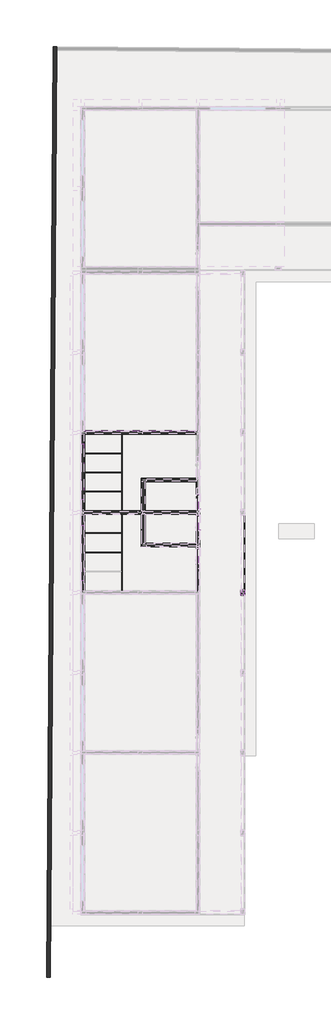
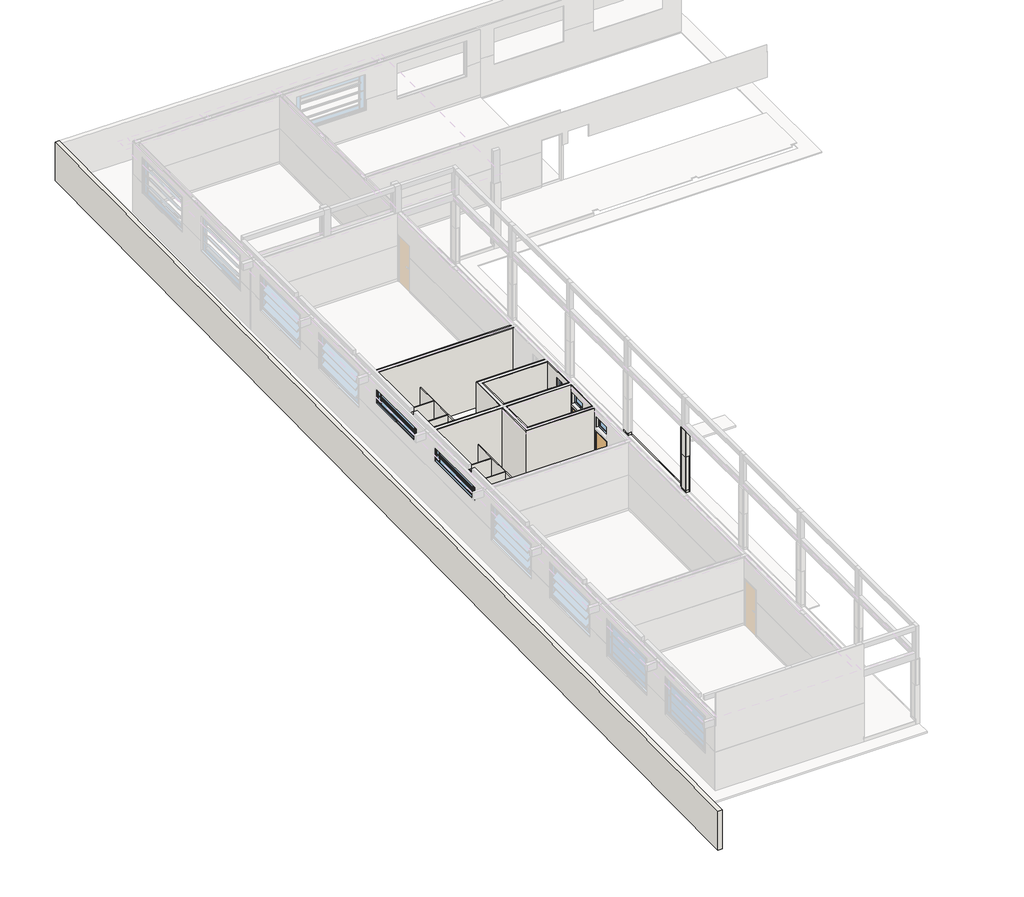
# One storey, part 3 of 11: 55 walls, 5 windows, 3 doors.
"""IFC4 building model written with IfcOpenShell, lengths in millimetres."""

from ifc_helpers import new_model, si_unit, frame, origin, place, context, project, spatial, polyline, outline, extrude, faceted_brep, transform, mapped, element, save
from components import door_80_x_210_cm_externa_36d8658d, door_80_x_210_cm_externa_7cd48cfd, window_a2abf67e, window_51dac84b

model = new_model("IFC4")

# Units and contexts
model_context = context("Model", 3, world=origin())
ifc_project = project(units=[si_unit("LENGTHUNIT", "METRE", prefix="MILLI")], contexts=[model_context])

# Site, building, storey
site = spatial("IfcSite", under=ifc_project)
building = spatial("IfcBuilding", under=site)
storey = spatial("IfcBuildingStorey", under=building, Name="NÍVEL 1", Elevation=43.4413576)

# Doors
placement = place(None, origin())
door_80_x_210_cm_externa_shape = door_80_x_210_cm_externa_36d8658d(model_context)
element("IfcDoor", 1, ObjectType="POR_PM_GIRO_1FL : 80 x 210 cm Externa", at=placement, inside=storey, context=model_context, shape_type="MappedRepresentation", body=[
    mapped(door_80_x_210_cm_externa_shape, transform((9202.3574069, -7377.9280358, 63.4413576), x_axis=(0.0, -1.0, 0.0), y_axis=(1.0, 0.0, 0.0), z_axis=(0.0, 0.0, 1.0))),
])
element("IfcDoor", 2, ObjectType="POR_PM_GIRO_1FL : 80 x 210 cm Externa", at=placement, inside=storey, context=model_context, shape_type="MappedRepresentation", body=[
    mapped(door_80_x_210_cm_externa_shape, transform((9202.3574069, -5597.9280358, 63.4413576), x_axis=(0.0, -1.0, 0.0), y_axis=(1.0, 0.0, 0.0), z_axis=(0.0, 0.0, 1.0))),
])
door_80_x_210_cm_externa_2_shape = door_80_x_210_cm_externa_7cd48cfd(model_context)
element("IfcDoor", 3, ObjectType="POR_PM_GIRO_1FL : 80 x 210 cm Externa", at=placement, inside=storey, context=model_context, shape_type="MappedRepresentation", body=[
    mapped(door_80_x_210_cm_externa_2_shape, transform((9202.3574069, -4457.9280358, 63.4413576), x_axis=(0.0, 1.0, 0.0), y_axis=(-1.0, 0.0, 0.0), z_axis=(0.0, 0.0, 1.0))),
])

# Walls
element("IfcWall", 4, ObjectType="RODAPÉ EM GRANILITE", at=placement, inside=storey, context=model_context, shape_type="Brep", body=[
    faceted_brep([(11502.3574069, -9197.9280358, 43.4413576), (11502.3574069, -9487.9280358, 43.4413576), (11502.3574069, -9487.9280358, 143.4413576), (11502.3574069, -9197.9280358, 143.4413576), (11532.3574069, -9197.9280358, 43.4413576), (11532.3574069, -9197.9280358, 143.4413576), (11532.3574069, -9457.9280358, 143.4413576), (11532.3574069, -9487.9280358, 143.4413576), (11532.3574069, -9487.9280358, 43.4413576), (11532.3574069, -9457.9280358, 43.4413576)], [[[0, 1, 2, 3]], [[4, 5, 6, 7, 8, 9]], [[1, 0, 4, 9, 8]], [[3, 2, 7, 6, 5]], [[0, 3, 5, 4]], [[2, 1, 8, 7]]]),
])
element("IfcWall", 5, ObjectType="RODAPÉ EM GRANILITE", at=placement, inside=storey, context=model_context, shape_type="Brep", body=[
    faceted_brep([(11532.3574069, -9487.9280358, 43.4413576), (11672.3574069, -9487.9280358, 43.4413576), (11672.3574069, -9487.9280358, 143.4413576), (11532.3574069, -9487.9280358, 143.4413576), (11532.3574069, -9457.9280358, 43.4413576), (11532.3574069, -9457.9280358, 143.4413576), (11672.3574069, -9457.9280358, 143.4413576), (11672.3574069, -9457.9280358, 43.4413576), (11672.3574069, -9472.9280358, 43.4413576)], [[[0, 1, 2, 3]], [[4, 5, 6, 7]], [[1, 0, 4, 7, 8]], [[3, 2, 6, 5]], [[0, 3, 5, 4]], [[2, 1, 8, 7, 6]]]),
])
element("IfcWall", 6, ObjectType="RODAPÉ EM GRANILITE", at=placement, inside=storey, context=model_context, shape_type="Brep", body=[
    faceted_brep([(11502.3574069, -4897.9280358, 43.4413576), (11502.3574069, -5187.9280358, 43.4413576), (11502.3574069, -5187.9280358, 143.4413576), (11502.3574069, -4897.9280358, 143.4413576), (11532.3574069, -4897.9280358, 43.4413576), (11532.3574069, -4897.9280358, 143.4413576), (11532.3574069, -5157.9280358, 143.4413576), (11532.3574069, -5187.9280358, 143.4413576), (11532.3574069, -5187.9280358, 43.4413576), (11532.3574069, -5157.9280358, 43.4413576)], [[[0, 1, 2, 3]], [[4, 5, 6, 7, 8, 9]], [[1, 0, 4, 9, 8]], [[3, 2, 7, 6, 5]], [[0, 3, 5, 4]], [[2, 1, 8, 7]]]),
])
element("IfcWall", 7, ObjectType="RODAPÉ EM GRANILITE", at=placement, inside=storey, context=model_context, shape_type="Brep", body=[
    faceted_brep([(11532.3574069, -5187.9280358, 43.4413576), (11672.3574069, -5187.9280358, 43.4413576), (11672.3574069, -5187.9280358, 143.4413576), (11532.3574069, -5187.9280358, 143.4413576), (11532.3574069, -5157.9280358, 43.4413576), (11532.3574069, -5157.9280358, 143.4413576), (11672.3574069, -5157.9280358, 143.4413576), (11672.3574069, -5157.9280358, 43.4413576), (11672.3574069, -5172.9280358, 43.4413576)], [[[0, 1, 2, 3]], [[4, 5, 6, 7]], [[1, 0, 4, 7, 8]], [[3, 2, 6, 5]], [[0, 3, 5, 4]], [[2, 1, 8, 7, 6]]]),
])
element("IfcWall", 8, ObjectType="MASSA ÚNICA PARA BARRADO", at=placement, inside=storey, context=model_context, shape_type="Brep", body=[
    faceted_brep([(11702.3574069, -9182.9280358, -106.5586424), (11702.3574069, -5172.9280358, -106.5586424), (11702.3574069, -5172.9280358, 43.4413576), (11702.3574069, -5187.9280358, 43.4413576), (11702.3574069, -9167.9280358, 43.4413576), (11702.3574069, -9182.9280358, 43.4413576), (11672.3574069, -9182.9280358, -106.5586424), (11672.3574069, -9182.9280358, 43.4413576), (11672.3574069, -9167.9280358, 43.4413576), (11672.3574069, -5187.9280358, 43.4413576), (11672.3574069, -5172.9280358, 43.4413576), (11672.3574069, -5172.9280358, -106.5586424)], [[[0, 1, 2, 3, 4, 5]], [[6, 7, 8, 9, 10, 11]], [[1, 0, 6, 11]], [[2, 1, 11, 10]], [[5, 4, 3, 2, 10, 9, 8, 7]], [[0, 5, 7, 6]]]),
])
element("IfcWall", 9, ObjectType="MASSA ÚNICA PARA BARRADO", at=placement, inside=storey, context=model_context, shape_type="Brep", body=[
    faceted_brep([(11702.3574069, -9472.9280358, -106.5586424), (11702.3574069, -9182.9280358, -106.5586424), (11702.3574069, -9182.9280358, 43.4413576), (11702.3574069, -9167.9280358, 43.4413576), (11702.3574069, -9167.9280358, 1663.4413576), (11702.3574069, -9487.9280358, 1663.4413576), (11702.3574069, -9487.9280358, 43.4413576), (11702.3574069, -9472.9280358, 43.4413576), (11672.3574069, -9472.9280358, -106.5586424), (11672.3574069, -9472.9280358, 43.4413576), (11672.3574069, -9487.9280358, 43.4413576), (11672.3574069, -9487.9280358, 143.4413576), (11672.3574069, -9487.9280358, 1663.4413576), (11672.3574069, -9457.9280358, 1663.4413576), (11672.3574069, -9197.9280358, 1663.4413576), (11672.3574069, -9167.9280358, 1663.4413576), (11672.3574069, -9167.9280358, 143.4413576), (11672.3574069, -9167.9280358, 43.4413576), (11672.3574069, -9182.9280358, 43.4413576), (11672.3574069, -9182.9280358, -106.5586424)], [[[0, 1, 2, 3, 4, 5, 6, 7]], [[8, 9, 10, 11, 12, 13, 14, 15, 16, 17, 18, 19]], [[1, 0, 8, 19]], [[5, 4, 15, 14, 13, 12]], [[0, 7, 9, 8]], [[6, 10, 9, 7]], [[2, 1, 19, 18]], [[17, 3, 2, 18]], [[3, 17, 16, 15, 4]], [[5, 12, 11, 10, 6]]]),
])
element("IfcWall", 10, ObjectType="PARE.ALVE ALVENARIA DE BLOCOS CERÂMICOS FURADOS NA HORIZONTAL 14X9X19", at=placement, inside=storey, context=model_context, shape_type="Brep", body=[
    faceted_brep([(9272.3574069, -9227.9280358, 2843.4413576), (9272.3574069, -9227.9280358, 43.4413576), (9272.3574069, -7797.9280358, 43.4413576), (9272.3574069, -7797.9280358, 2163.4413576), (9272.3574069, -6957.9280358, 2163.4413576), (9272.3574069, -6957.9280358, 43.4413576), (9272.3574069, -6017.9280358, 43.4413576), (9272.3574069, -6017.9280358, 2163.4413576), (9272.3574069, -5177.9280358, 2163.4413576), (9272.3574069, -5177.9280358, 43.4413576), (9272.3574069, -5157.9280358, 43.4413576), (9272.3574069, -5157.9280358, 2208.4413576), (9272.3574069, -6357.9280358, 2208.4413576), (9272.3574069, -6357.9280358, 2308.4413576), (9272.3574069, -5157.9280358, 2308.4413576), (9272.3574069, -5157.9280358, 2843.4413576), (9272.3574069, -5187.9280358, 2843.4413576), (9272.3574069, -5187.9280358, 2343.4413576), (9272.3574069, -5162.9280358, 2343.4413576), (9272.3574069, -5162.9280358, 2313.4413576), (9272.3574069, -6012.9280358, 2313.4413576), (9272.3574069, -6012.9280358, 2343.4413576), (9272.3574069, -5987.9280358, 2343.4413576), (9272.3574069, -5987.9280358, 2843.4413576), (9272.3574069, -6967.9280358, 2843.4413576), (9272.3574069, -6967.9280358, 2343.4413576), (9272.3574069, -6942.9280358, 2343.4413576), (9272.3574069, -6942.9280358, 2313.4413576), (9272.3574069, -7792.9280358, 2313.4413576), (9272.3574069, -7792.9280358, 2343.4413576), (9272.3574069, -7767.9280358, 2343.4413576), (9272.3574069, -7767.9280358, 2843.4413576), (9272.3574069, -8047.9280358, 2308.4413576), (9272.3574069, -6847.9280358, 2308.4413576), (9272.3574069, -6847.9280358, 2208.4413576), (9272.3574069, -8047.9280358, 2208.4413576), (9132.3574069, -9227.9280358, 43.4413576), (9132.3574069, -9227.9280358, 2843.4413576), (9132.3574069, -7767.9280358, 2843.4413576), (9132.3574069, -7767.9280358, 2343.4413576), (9132.3574069, -7792.9280358, 2343.4413576), (9132.3574069, -7792.9280358, 2313.4413576), (9132.3574069, -6942.9280358, 2313.4413576), (9132.3574069, -6942.9280358, 2343.4413576), (9132.3574069, -6967.9280358, 2343.4413576), (9132.3574069, -6967.9280358, 2843.4413576), (9132.3574069, -6847.9280358, 2843.4413576), (9132.3574069, -6707.9280358, 2843.4413576), (9132.3574069, -5987.9280358, 2843.4413576), (9132.3574069, -5987.9280358, 2343.4413576), (9132.3574069, -6012.9280358, 2343.4413576), (9132.3574069, -6012.9280358, 2313.4413576), (9132.3574069, -5162.9280358, 2313.4413576), (9132.3574069, -5162.9280358, 2343.4413576), (9132.3574069, -5187.9280358, 2343.4413576), (9132.3574069, -5187.9280358, 2843.4413576), (9132.3574069, -5157.9280358, 2843.4413576), (9132.3574069, -5157.9280358, 2308.4413576), (9132.3574069, -6357.9280358, 2308.4413576), (9132.3574069, -6357.9280358, 2208.4413576), (9132.3574069, -5157.9280358, 2208.4413576), (9132.3574069, -5157.9280358, 43.4413576), (9132.3574069, -5177.9280358, 43.4413576), (9132.3574069, -5177.9280358, 2163.4413576), (9132.3574069, -6017.9280358, 2163.4413576), (9132.3574069, -6017.9280358, 43.4413576), (9132.3574069, -6707.9280358, 43.4413576), (9132.3574069, -6847.9280358, 43.4413576), (9132.3574069, -6957.9280358, 43.4413576), (9132.3574069, -6957.9280358, 2163.4413576), (9132.3574069, -7797.9280358, 2163.4413576), (9132.3574069, -7797.9280358, 43.4413576), (9132.3574069, -6847.9280358, 2308.4413576), (9132.3574069, -8047.9280358, 2308.4413576), (9132.3574069, -8047.9280358, 2208.4413576), (9132.3574069, -6847.9280358, 2208.4413576)], [[[0, 1, 2, 3, 4, 5, 6, 7, 8, 9, 10, 11, 12, 13, 14, 15, 16, 17, 18, 19, 20, 21, 22, 23, 24, 25, 26, 27, 28, 29, 30, 31], [32, 33, 34, 35]], [[36, 37, 38, 39, 40, 41, 42, 43, 44, 45, 46, 47, 48, 49, 50, 51, 52, 53, 54, 55, 56, 57, 58, 59, 60, 61, 62, 63, 64, 65, 66, 67, 68, 69, 70, 71], [72, 73, 74, 75]], [[61, 10, 9, 62]], [[1, 36, 71, 2]], [[5, 68, 67, 66, 65, 6]], [[10, 61, 60, 11]], [[56, 15, 14, 57]], [[15, 56, 55, 16]], [[37, 0, 31, 38]], [[23, 48, 47, 46, 45, 24]], [[1, 0, 37, 36]], [[4, 69, 68, 5]], [[70, 3, 2, 71]], [[69, 4, 3, 70]], [[8, 63, 62, 9]], [[64, 7, 6, 65]], [[63, 8, 7, 64]], [[32, 73, 72, 33]], [[73, 32, 35, 74]], [[74, 35, 34, 75]], [[33, 72, 75, 34]], [[13, 58, 57, 14]], [[58, 13, 12, 59]], [[59, 12, 11, 60]], [[53, 52, 19, 18]], [[54, 53, 18, 17]], [[55, 54, 17, 16]], [[49, 48, 23, 22]], [[50, 49, 22, 21]], [[51, 50, 21, 20]], [[52, 51, 20, 19]], [[43, 42, 27, 26]], [[44, 43, 26, 25]], [[45, 44, 25, 24]], [[39, 38, 31, 30]], [[40, 39, 30, 29]], [[41, 40, 29, 28]], [[42, 41, 28, 27]]]),
])
element("IfcWall", 11, ObjectType="PARE.ALVE ALVENARIA DE BLOCOS CERÂMICOS FURADOS NA HORIZONTAL 14X9X19", at=placement, inside=storey, context=model_context, shape_type="Brep", body=[
    faceted_brep([(6442.3574069, -6847.9280358, 43.4413576), (9132.3574069, -6847.9280358, 43.4413576), (9132.3574069, -6847.9280358, 63.4413576), (9132.3574069, -6847.9280358, 2208.4413576), (9132.3574069, -6847.9280358, 2308.4413576), (9132.3574069, -6847.9280358, 2843.4413576), (6442.3574069, -6847.9280358, 2843.4413576), (6442.3574069, -6707.9280358, 43.4413576), (6442.3574069, -6707.9280358, 2843.4413576), (9132.3574069, -6707.9280358, 2843.4413576), (9132.3574069, -6707.9280358, 43.4413576)], [[[0, 1, 2, 3, 4, 5, 6]], [[7, 8, 9, 10]], [[1, 0, 7, 10]], [[6, 5, 9, 8]], [[0, 6, 8, 7]], [[5, 4, 3, 2, 1, 10, 9]]]),
])
element("IfcWall", 12, ObjectType="PARE.ALVE ALVENARIA DE BLOCOS CERÂMICOS FURADOS NA HORIZONTAL 14X9X19", at=placement, inside=storey, context=model_context, shape_type="Brep", body=[
    faceted_brep([(6322.3574069, -5097.9280358, 43.4413576), (9102.3574069, -5097.9280358, 43.4413576), (9132.3574069, -5097.9280358, 43.4413576), (9132.3574069, -5097.9280358, 2843.4413576), (6322.3574069, -5097.9280358, 2843.4413576), (6322.3574069, -4957.9280358, 43.4413576), (6322.3574069, -4957.9280358, 2843.4413576), (9132.3574069, -4957.9280358, 2843.4413576), (9132.3574069, -4957.9280358, 43.4413576)], [[[0, 1, 2, 3, 4]], [[5, 6, 7, 8]], [[2, 1, 0, 5, 8]], [[4, 3, 7, 6]], [[0, 4, 6, 5]], [[3, 2, 8, 7]]]),
])
element("IfcWall", 13, ObjectType="PARE.ALVE ALVENARIA DE BLOCOS CERÂMICOS FURADOS NA HORIZONTAL 14X9X19", at=placement, inside=storey, context=model_context, shape_type="Brep", body=[
    faceted_brep([(6322.3574069, -6707.9280358, 43.4413576), (6322.3574069, -5097.9280358, 43.4413576), (6322.3574069, -4957.9280358, 43.4413576), (6322.3574069, -3347.9201223, 43.4413576), (6322.3574069, -3347.9201223, 2843.4413576), (6322.3574069, -4957.9280358, 2843.4413576), (6322.3574069, -5097.9280358, 2843.4413576), (6322.3574069, -6707.9280358, 2843.4413576), (6182.3574069, -6707.9280358, 43.4413576), (6182.3574069, -6707.9280358, 2843.4413576), (6182.3574069, -3347.9201223, 2843.4413576), (6182.3574069, -3347.9201223, 43.4413576)], [[[0, 1, 2, 3, 4, 5, 6, 7]], [[8, 9, 10, 11]], [[3, 2, 1, 0, 8, 11]], [[4, 3, 11, 10]], [[7, 6, 5, 4, 10, 9]], [[0, 7, 9, 8]]]),
])
element("IfcWall", 14, ObjectType="PARE.ALVE ALVENARIA DE BLOCOS CERÂMICOS FURADOS NA HORIZONTAL 14X9X19", at=placement, inside=storey, context=model_context, shape_type="Brep", body=[
    faceted_brep([(6442.3574069, -3347.9280358, 43.4413576), (9132.3574069, -3347.9280358, 43.4413576), (9132.3574069, -3347.9280358, 2843.4413576), (6442.3574069, -3347.9280358, 2843.4413576), (6442.3574069, -3207.9280358, 43.4413576), (6442.3574069, -3207.9280358, 2843.4413576), (9132.3574069, -3207.9280358, 2843.4413576), (9132.3574069, -3207.9280358, 2308.4413576), (9132.3574069, -3207.9280358, 2208.4413576), (9132.3574069, -3207.9280358, 63.4413576), (9132.3574069, -3207.9280358, 43.4413576)], [[[0, 1, 2, 3]], [[4, 5, 6, 7, 8, 9, 10]], [[1, 0, 4, 10]], [[3, 2, 6, 5]], [[0, 3, 5, 4]], [[1, 10, 9, 8, 7, 6, 2]]]),
])
element("IfcWall", 15, ObjectType="PARE.ALVE ALVENARIA DE BLOCOS CERÂMICOS FURADOS NA HORIZONTAL 14X9X19", at=placement, inside=storey, context=model_context, shape_type="Brep", body=[
    faceted_brep([(5972.3574069, -4957.9280358, 43.4413576), (3072.3574069, -4957.9280358, 43.4413576), (3072.3574069, -4957.9280358, 2843.4413576), (5972.3574069, -4957.9280358, 2843.4413576), (5972.3574069, -5097.9280358, 43.4413576), (5972.3574069, -5097.9280358, 2843.4413576), (3072.3574069, -5097.9280358, 2843.4413576), (3072.3574069, -5097.9280358, 63.4413576), (3072.3574069, -5097.9280358, 43.4413576)], [[[0, 1, 2, 3]], [[4, 5, 6, 7, 8]], [[1, 0, 4, 8]], [[3, 2, 6, 5]], [[0, 3, 5, 4]], [[2, 1, 8, 7, 6]]]),
])
element("IfcWall", 16, ObjectType="PARE.ALVE ALVENARIA DE BLOCOS CERÂMICOS FURADOS NA HORIZONTAL 14X9X19", at=placement, inside=storey, context=model_context, shape_type="SweptSolid", body=[
    extrude(outline(polyline([(3072.3574069, -797.9280358), (3072.3574069, -4897.9280358), (2932.3574069, -4897.9280358), (2932.3574069, -797.9280358), (3072.3574069, -797.9280358)])), frame((0.0, 0.0, 43.4413576), z_axis=(0.0, 0.0, 1.0), x_axis=(1.0, 0.0, 0.0)), (0.0, 0.0, 1.0), 1960.0),
    extrude(outline(polyline([(3072.3574069, -4897.9280358), (2932.3574069, -4897.9280358), (2932.3574069, -4347.9280358), (3072.3574069, -4347.9280358), (3072.3574069, -4897.9280358)])), frame((0.0, 0.0, 2203.4413576), z_axis=(0.0, 0.0, 1.0), x_axis=(1.0, 0.0, 0.0)), (0.0, 0.0, 1.0), 640.0),
    extrude(outline(polyline([(2932.3574069, -797.9280358), (3072.3574069, -797.9280358), (3072.3574069, -1347.9280358), (2932.3574069, -1347.9280358), (2932.3574069, -797.9280358)])), frame((0.0, 0.0, 2203.4413576), z_axis=(0.0, 0.0, 1.0), x_axis=(1.0, 0.0, 0.0)), (0.0, 0.0, 1.0), 640.0),
])
element("IfcWall", 17, ObjectType="PARE.ALVE ALVENARIA DE BLOCOS CERÂMICOS FURADOS NA HORIZONTAL 14X9X19", at=placement, inside=storey, context=model_context, shape_type="SweptSolid", body=[
    extrude(outline(polyline([(2932.3574069, -9257.9280358), (2932.3574069, -5157.9280358), (3072.3574069, -5157.9280358), (3072.3574069, -9257.9280358), (2932.3574069, -9257.9280358)])), frame((0.0, 0.0, 43.4413576), z_axis=(0.0, 0.0, 1.0), x_axis=(1.0, 0.0, 0.0)), (0.0, 0.0, 1.0), 1960.0),
    extrude(outline(polyline([(3072.3574069, -9257.9280358), (2932.3574069, -9257.9280358), (2932.3574069, -8707.9280358), (3072.3574069, -8707.9280358), (3072.3574069, -9257.9280358)])), frame((0.0, 0.0, 2203.4413576), z_axis=(0.0, 0.0, 1.0), x_axis=(1.0, 0.0, 0.0)), (0.0, 0.0, 1.0), 640.0),
    extrude(outline(polyline([(2932.3574069, -5157.9280358), (3072.3574069, -5157.9280358), (3072.3574069, -5707.9280358), (2932.3574069, -5707.9280358), (2932.3574069, -5157.9280358)])), frame((0.0, 0.0, 2203.4413576), z_axis=(0.0, 0.0, 1.0), x_axis=(1.0, 0.0, 0.0)), (0.0, 0.0, 1.0), 640.0),
])
element("IfcWall", 18, ObjectType="PARE.ALVE ALVENARIA DE BLOCOS CERÂMICOS FURADOS NA HORIZONTAL 14X9X19", at=placement, inside=storey, context=model_context, shape_type="SweptSolid", body=[
    extrude(outline(polyline([(5972.3574069, -797.9280358), (3192.3574069, -797.9280358), (3192.3574069, -657.9280358), (5972.3574069, -657.9280358), (5972.3574069, -797.9280358)])), frame((0.0, 0.0, 43.4413576), z_axis=(0.0, 0.0, 1.0), x_axis=(1.0, 0.0, 0.0)), (0.0, 0.0, 1.0), 2800.0),
])
element("IfcWall", 19, ObjectType="PARE.ALVE ALVENARIA DE BLOCOS CERÂMICOS FURADOS NA HORIZONTAL 14X9X19", at=placement, inside=storey, context=model_context, shape_type="SweptSolid", body=[
    extrude(outline(polyline([(9012.3574069, -797.9280358), (6232.3574069, -797.9280358), (6232.3574069, -657.9280358), (9012.3574069, -657.9280358), (9012.3574069, -797.9280358)])), frame((0.0, 0.0, 43.4413576), z_axis=(0.0, 0.0, 1.0), x_axis=(1.0, 0.0, 0.0)), (0.0, 0.0, 1.0), 2800.0),
])
element("IfcWall", 20, ObjectType="REVE.RODA RODAPÉ CERÂMICO TIPO GRÊS 60X60CM", at=placement, inside=storey, context=model_context, shape_type="Brep", body=[
    faceted_brep([(3102.3574069, -5127.9280358, 3143.4413576), (3102.3574069, -5127.9280358, 63.4413576), (6152.3574069, -5127.9280358, 63.4413576), (6182.3574069, -5127.9280358, 63.4413576), (6182.3574069, -5127.9280358, 3143.4413576), (6152.3574069, -5127.9280358, 3143.4413576), (3102.3574069, -5097.9280358, 63.4413576), (3102.3574069, -5097.9280358, 3143.4413576), (6182.3574069, -5097.9280358, 3143.4413576), (6182.3574069, -5097.9280358, 63.4413576)], [[[0, 1, 2, 3, 4, 5]], [[6, 7, 8, 9]], [[3, 2, 1, 6, 9]], [[0, 5, 4, 8, 7]], [[0, 7, 6, 1]], [[4, 3, 9, 8]]]),
])
element("IfcWall", 21, ObjectType="REVE.RODA RODAPÉ CERÂMICO TIPO GRÊS 60X60CM", at=placement, inside=storey, context=model_context, shape_type="Brep", body=[
    faceted_brep([(6152.3574069, -5127.9280358, 63.4413576), (6152.3574069, -6877.9280358, 63.4413576), (6152.3574069, -6877.9280358, 3143.4413576), (6152.3574069, -5127.9280358, 3143.4413576), (6182.3574069, -5127.9280358, 63.4413576), (6182.3574069, -5127.9280358, 3143.4413576), (6182.3574069, -6847.9280358, 3143.4413576), (6182.3574069, -6877.9280358, 3143.4413576), (6182.3574069, -6877.9280358, 63.4413576), (6182.3574069, -6847.9280358, 63.4413576)], [[[0, 1, 2, 3]], [[4, 5, 6, 7, 8, 9]], [[1, 0, 4, 9, 8]], [[3, 2, 7, 6, 5]], [[0, 3, 5, 4]], [[2, 1, 8, 7]]]),
])
element("IfcWall", 22, ObjectType="REVE.RODA RODAPÉ CERÂMICO TIPO GRÊS 60X60CM", at=placement, inside=storey, context=model_context, shape_type="SweptSolid", body=[
    extrude(outline(polyline([(6182.3574069, -6877.9280358), (6182.3574069, -6847.9280358), (9102.3574069, -6847.9280358), (9102.3574069, -6877.9280358), (6182.3574069, -6877.9280358)])), frame((0.0, 0.0, 63.4413576), z_axis=(0.0, 0.0, 1.0), x_axis=(1.0, 0.0, 0.0)), (0.0, 0.0, 1.0), 3080.0),
])
element("IfcWall", 23, ObjectType="REVE.RODA RODAPÉ CERÂMICO TIPO GRÊS 60X60CM", at=placement, inside=storey, context=model_context, shape_type="Brep", body=[
    faceted_brep([(3102.3574069, -9227.9280358, 63.4413576), (3102.3574069, -5127.9280358, 63.4413576), (3102.3574069, -5097.9280358, 63.4413576), (3102.3574069, -5097.9280358, 3143.4413576), (3102.3574069, -5127.9280358, 3143.4413576), (3102.3574069, -9227.9280358, 3143.4413576), (3102.3574069, -8707.9280358, 2843.4413576), (3102.3574069, -5707.9280358, 2843.4413576), (3102.3574069, -5707.9280358, 2203.4413576), (3102.3574069, -8707.9280358, 2203.4413576), (3072.3574069, -5097.9280358, 3143.4413576), (3072.3574069, -5097.9280358, 2843.4413576), (3072.3574069, -5097.9280358, 63.4413576), (3072.3574069, -9227.9280358, 63.4413576), (3072.3574069, -9227.9280358, 3143.4413576), (3072.3574069, -5707.9280358, 2843.4413576), (3072.3574069, -8707.9280358, 2843.4413576), (3072.3574069, -8707.9280358, 2203.4413576), (3072.3574069, -5707.9280358, 2203.4413576)], [[[0, 1, 2, 3, 4, 5], [6, 7, 8, 9]], [[10, 11, 12, 13, 14], [15, 16, 17, 18]], [[2, 1, 0, 13, 12]], [[5, 4, 3, 10, 14]], [[2, 12, 11, 10, 3]], [[0, 5, 14, 13]], [[6, 16, 15, 7]], [[8, 18, 17, 9]], [[16, 6, 9, 17]], [[7, 15, 18, 8]]]),
])
element("IfcWall", 24, ObjectType="Divisória em granito cinza andorinha", at=placement, inside=storey, context=model_context, shape_type="SweptSolid", body=[
    extrude(outline(polyline([(5102.3574069, -7187.9280358), (3102.3574069, -7187.9280358), (3102.3574069, -7157.9280358), (5102.3574069, -7157.9280358), (5102.3574069, -7187.9280358)])), frame((0.0, 0.0, 43.4413576), z_axis=(0.0, 0.0, 1.0), x_axis=(1.0, 0.0, 0.0)), (0.0, 0.0, 1.0), 1800.0),
])
element("IfcWall", 25, ObjectType="Divisória em granito cinza andorinha", at=placement, inside=storey, context=model_context, shape_type="SweptSolid", body=[
    extrude(outline(polyline([(5102.3574069, -6157.9280358), (3102.3574069, -6157.9280358), (3102.3574069, -6127.9280358), (5102.3574069, -6127.9280358), (5102.3574069, -6157.9280358)])), frame((0.0, 0.0, 43.4413576), z_axis=(0.0, 0.0, 1.0), x_axis=(1.0, 0.0, 0.0)), (0.0, 0.0, 1.0), 1800.0),
])
element("IfcWall", 26, ObjectType="Divisória em granito cinza andorinha", at=placement, inside=storey, context=model_context, shape_type="Brep", body=[
    faceted_brep([(5132.3574069, -9227.9280358, 43.4413576), (5132.3574069, -5127.9280358, 43.4413576), (5132.3574069, -5127.9280358, 1843.4413576), (5132.3574069, -9227.9280358, 1843.4413576), (5102.3574069, -9227.9280358, 43.4413576), (5102.3574069, -9227.9280358, 1843.4413576), (5102.3574069, -8217.9280358, 1843.4413576), (5102.3574069, -8187.9280358, 1843.4413576), (5102.3574069, -7187.9280358, 1843.4413576), (5102.3574069, -7157.9280358, 1843.4413576), (5102.3574069, -6157.9280358, 1843.4413576), (5102.3574069, -6127.9280358, 1843.4413576), (5102.3574069, -5127.9280358, 1843.4413576), (5102.3574069, -5127.9280358, 43.4413576), (5102.3574069, -6127.9280358, 43.4413576), (5102.3574069, -6157.9280358, 43.4413576), (5102.3574069, -7157.9280358, 43.4413576), (5102.3574069, -7187.9280358, 43.4413576), (5102.3574069, -8187.9280358, 43.4413576), (5102.3574069, -8217.9280358, 43.4413576)], [[[0, 1, 2, 3]], [[4, 5, 6, 7, 8, 9, 10, 11, 12, 13, 14, 15, 16, 17, 18, 19]], [[1, 0, 4, 19, 18, 17, 16, 15, 14, 13]], [[3, 2, 12, 11, 10, 9, 8, 7, 6, 5]], [[2, 1, 13, 12]], [[0, 3, 5, 4]]]),
])
element("IfcWall", 27, ObjectType="RODAPÉ EM GRANILITE", at=placement, inside=storey, context=model_context, shape_type="Brep", body=[
    faceted_brep([(9132.3574069, -627.9280358, 63.4413576), (9102.3574069, -627.9280358, 63.4413576), (3102.3574069, -627.9280358, 63.4413576), (3072.3574069, -627.9280358, 63.4413576), (3072.3574069, -627.9280358, 163.4413576), (3102.3574069, -627.9280358, 163.4413576), (9102.3574069, -627.9280358, 163.4413576), (9132.3574069, -627.9280358, 163.4413576), (9132.3574069, -657.9280358, 63.4413576), (9132.3574069, -657.9280358, 163.4413576), (3072.3574069, -657.9280358, 163.4413576), (3072.3574069, -657.9280358, 63.4413576)], [[[0, 1, 2, 3, 4, 5, 6, 7]], [[8, 9, 10, 11]], [[3, 2, 1, 0, 8, 11]], [[7, 6, 5, 4, 10, 9]], [[0, 7, 9, 8]], [[4, 3, 11, 10]]]),
])
element("IfcWall", 28, ObjectType="RODAPÉ EM GRANILITE", at=placement, inside=storey, context=model_context, shape_type="SweptSolid", body=[
    extrude(outline(polyline([(9302.3574069, -6042.9280358), (9302.3574069, -6932.9280358), (9272.3574069, -6932.9280358), (9272.3574069, -6042.9280358), (9302.3574069, -6042.9280358)])), frame((0.0, 0.0, 43.4413576), z_axis=(0.0, 0.0, 1.0), x_axis=(1.0, 0.0, 0.0)), (0.0, 0.0, 1.0), 100.0),
])
element("IfcWall", 29, ObjectType="RODAPÉ EM GRANILITE", at=placement, inside=storey, context=model_context, shape_type="SweptSolid", body=[
    extrude(outline(polyline([(9302.3574069, -4902.9280358), (9302.3574069, -5152.9280358), (9272.3574069, -5152.9280358), (9272.3574069, -4902.9280358), (9302.3574069, -4902.9280358)])), frame((0.0, 0.0, 43.4413576), z_axis=(0.0, 0.0, 1.0), x_axis=(1.0, 0.0, 0.0)), (0.0, 0.0, 1.0), 100.0),
])
element("IfcWall", 30, ObjectType="MASSA ÚNICA PARA BARRADO", at=placement, inside=storey, context=model_context, shape_type="Brep", body=[
    faceted_brep([(9132.3574069, -627.9280358, 163.4413576), (9102.3574069, -627.9280358, 163.4413576), (3102.3574069, -627.9280358, 163.4413576), (3072.3574069, -627.9280358, 163.4413576), (3072.3574069, -627.9280358, 1663.4413576), (3102.3574069, -627.9280358, 1663.4413576), (9102.3574069, -627.9280358, 1663.4413576), (9132.3574069, -627.9280358, 1663.4413576), (9132.3574069, -657.9280358, 163.4413576), (9132.3574069, -657.9280358, 1663.4413576), (3072.3574069, -657.9280358, 1663.4413576), (3072.3574069, -657.9280358, 1203.4413576), (3072.3574069, -657.9280358, 1003.4413576), (3072.3574069, -657.9280358, 163.4413576)], [[[0, 1, 2, 3, 4, 5, 6, 7]], [[8, 9, 10, 11, 12, 13]], [[3, 2, 1, 0, 8, 13]], [[7, 6, 5, 4, 10, 9]], [[0, 7, 9, 8]], [[4, 3, 13, 12, 11, 10]]]),
])
element("IfcWall", 31, ObjectType="MASSA ÚNICA PARA LATEX", at=placement, inside=storey, context=model_context, shape_type="Brep", body=[
    faceted_brep([(9132.3574069, -627.9280358, 3143.4413576), (9132.3574069, -627.9280358, 1663.4413576), (9102.3574069, -627.9280358, 1663.4413576), (3102.3574069, -627.9280358, 1663.4413576), (3072.3574069, -627.9280358, 1663.4413576), (3072.3574069, -627.9280358, 3143.4413576), (3102.3574069, -627.9280358, 3143.4413576), (9102.3574069, -627.9280358, 3143.4413576), (9132.3574069, -657.9280358, 1663.4413576), (9132.3574069, -657.9280358, 2843.4413576), (9132.3574069, -657.9280358, 3143.4413576), (3072.3574069, -657.9280358, 3143.4413576), (3072.3574069, -657.9280358, 2843.4413576), (3072.3574069, -657.9280358, 1663.4413576)], [[[0, 1, 2, 3, 4, 5, 6, 7]], [[8, 9, 10, 11, 12, 13]], [[4, 3, 2, 1, 8, 13]], [[0, 7, 6, 5, 11, 10]], [[0, 10, 9, 8, 1]], [[5, 4, 13, 12, 11]]]),
])
element("IfcWall", 32, ObjectType="REVE.RODA RODAPÉ CERÂMICO TIPO GRÊS 60X60CM", at=placement, inside=storey, context=model_context, shape_type="Brep", body=[
    faceted_brep([(6322.3574069, -5127.9280358, 43.4413576), (6352.3574069, -5127.9280358, 43.4413576), (9102.3574069, -5127.9280358, 43.4413576), (9102.3574069, -5127.9280358, 3143.4413576), (6352.3574069, -5127.9280358, 3143.4413576), (6322.3574069, -5127.9280358, 3143.4413576), (6322.3574069, -5097.9280358, 43.4413576), (6322.3574069, -5097.9280358, 3143.4413576), (9102.3574069, -5097.9280358, 3143.4413576), (9102.3574069, -5097.9280358, 43.4413576)], [[[0, 1, 2, 3, 4, 5]], [[6, 7, 8, 9]], [[2, 1, 0, 6, 9]], [[5, 4, 3, 8, 7]], [[2, 9, 8, 3]], [[0, 5, 7, 6]]]),
])
element("IfcWall", 33, ObjectType="REVE.RODA RODAPÉ CERÂMICO TIPO GRÊS 60X60CM", at=placement, inside=storey, context=model_context, shape_type="Brep", body=[
    faceted_brep([(9102.3574069, -6707.9280358, 43.4413576), (9102.3574069, -6707.9280358, 3143.4413576), (9102.3574069, -6677.9280358, 3143.4413576), (9102.3574069, -5127.9280358, 3143.4413576), (9102.3574069, -5097.9280358, 3143.4413576), (9102.3574069, -5097.9280358, 43.4413576), (9102.3574069, -5127.9280358, 43.4413576), (9102.3574069, -5147.9280358, 43.4413576), (9102.3574069, -5147.9280358, 2213.4413576), (9102.3574069, -6047.9280358, 2213.4413576), (9102.3574069, -6047.9280358, 43.4413576), (9102.3574069, -6677.9280358, 43.4413576), (9102.3574069, -5187.9280358, 2843.4413576), (9102.3574069, -5987.9280358, 2843.4413576), (9102.3574069, -5987.9280358, 2313.4413576), (9102.3574069, -5187.9280358, 2313.4413576), (9132.3574069, -6707.9280358, 3143.4413576), (9132.3574069, -6707.9280358, 43.4413576), (9132.3574069, -6047.9280358, 43.4413576), (9132.3574069, -6047.9280358, 2213.4413576), (9132.3574069, -5147.9280358, 2213.4413576), (9132.3574069, -5147.9280358, 43.4413576), (9132.3574069, -5097.9280358, 43.4413576), (9132.3574069, -5097.9280358, 2843.4413576), (9132.3574069, -5097.9280358, 3143.4413576), (9132.3574069, -5987.9280358, 2843.4413576), (9132.3574069, -5187.9280358, 2843.4413576), (9132.3574069, -5187.9280358, 2313.4413576), (9132.3574069, -5987.9280358, 2313.4413576)], [[[0, 1, 2, 3, 4, 5, 6, 7, 8, 9, 10, 11], [12, 13, 14, 15]], [[16, 17, 18, 19, 20, 21, 22, 23, 24], [25, 26, 27, 28]], [[5, 22, 21, 7, 6]], [[17, 0, 11, 10, 18]], [[4, 3, 2, 1, 16, 24]], [[4, 24, 23, 22, 5]], [[1, 0, 17, 16]], [[8, 20, 19, 9]], [[20, 8, 7, 21]], [[9, 19, 18, 10]], [[12, 26, 25, 13]], [[14, 28, 27, 15]], [[26, 12, 15, 27]], [[13, 25, 28, 14]]]),
])
element("IfcWall", 34, ObjectType="REVE.RODA RODAPÉ CERÂMICO TIPO GRÊS 60X60CM", at=placement, inside=storey, context=model_context, shape_type="Brep", body=[
    faceted_brep([(9102.3574069, -6677.9280358, 43.4413576), (6352.3574069, -6677.9280358, 43.4413576), (6322.3574069, -6677.9280358, 43.4413576), (6322.3574069, -6677.9280358, 3143.4413576), (6352.3574069, -6677.9280358, 3143.4413576), (9102.3574069, -6677.9280358, 3143.4413576), (9102.3574069, -6707.9280358, 43.4413576), (9102.3574069, -6707.9280358, 3143.4413576), (6322.3574069, -6707.9280358, 3143.4413576), (6322.3574069, -6707.9280358, 43.4413576)], [[[0, 1, 2, 3, 4, 5]], [[6, 7, 8, 9]], [[2, 1, 0, 6, 9]], [[5, 4, 3, 8, 7]], [[3, 2, 9, 8]], [[0, 5, 7, 6]]]),
])
element("IfcWall", 35, ObjectType="REVE.RODA RODAPÉ CERÂMICO TIPO GRÊS 60X60CM", at=placement, inside=storey, context=model_context, shape_type="SweptSolid", body=[
    extrude(outline(polyline([(6352.3574069, -5127.9280358), (6352.3574069, -6677.9280358), (6322.3574069, -6677.9280358), (6322.3574069, -5127.9280358), (6352.3574069, -5127.9280358)])), frame((0.0, 0.0, 43.4413576), z_axis=(0.0, 0.0, 1.0), x_axis=(1.0, 0.0, 0.0)), (0.0, 0.0, 1.0), 3100.0),
])
element("IfcWall", 36, ObjectType="MASSA ÚNICA PARA BARRADO", at=placement, inside=storey, context=model_context, shape_type="SweptSolid", body=[
    extrude(outline(polyline([(9302.3574069, -6042.9280358), (9302.3574069, -6932.9280358), (9272.3574069, -6932.9280358), (9272.3574069, -6042.9280358), (9302.3574069, -6042.9280358)])), frame((0.0, 0.0, 143.4413576), z_axis=(0.0, 0.0, 1.0), x_axis=(1.0, 0.0, 0.0)), (0.0, 0.0, 1.0), 1520.0),
])
element("IfcWall", 37, ObjectType="MASSA ÚNICA PARA BARRADO", at=placement, inside=storey, context=model_context, shape_type="SweptSolid", body=[
    extrude(outline(polyline([(9302.3574069, -4902.9280358), (9302.3574069, -5152.9280358), (9272.3574069, -5152.9280358), (9272.3574069, -4902.9280358), (9302.3574069, -4902.9280358)])), frame((0.0, 0.0, 143.4413576), z_axis=(0.0, 0.0, 1.0), x_axis=(1.0, 0.0, 0.0)), (0.0, 0.0, 1.0), 1520.0),
])
element("IfcWall", 38, ObjectType="MASSA ÚNICA PARA BARRADO", at=placement, inside=storey, context=model_context, shape_type="Brep", body=[
    faceted_brep([(11672.3574069, -9167.9280358, 143.4413576), (11502.3574069, -9167.9280358, 143.4413576), (11502.3574069, -9167.9280358, 1663.4413576), (11672.3574069, -9167.9280358, 1663.4413576), (11672.3574069, -9197.9280358, 143.4413576), (11672.3574069, -9197.9280358, 1663.4413576), (11532.3574069, -9197.9280358, 1663.4413576), (11502.3574069, -9197.9280358, 1663.4413576), (11502.3574069, -9197.9280358, 143.4413576), (11532.3574069, -9197.9280358, 143.4413576)], [[[0, 1, 2, 3]], [[4, 5, 6, 7, 8, 9]], [[1, 0, 4, 9, 8]], [[3, 2, 7, 6, 5]], [[0, 3, 5, 4]], [[2, 1, 8, 7]]]),
])
element("IfcWall", 39, ObjectType="MASSA ÚNICA PARA BARRADO", at=placement, inside=storey, context=model_context, shape_type="Brep", body=[
    faceted_brep([(11502.3574069, -9197.9280358, 143.4413576), (11502.3574069, -9487.9280358, 143.4413576), (11502.3574069, -9487.9280358, 1663.4413576), (11502.3574069, -9197.9280358, 1663.4413576), (11532.3574069, -9197.9280358, 143.4413576), (11532.3574069, -9197.9280358, 1663.4413576), (11532.3574069, -9457.9280358, 1663.4413576), (11532.3574069, -9487.9280358, 1663.4413576), (11532.3574069, -9487.9280358, 143.4413576), (11532.3574069, -9457.9280358, 143.4413576)], [[[0, 1, 2, 3]], [[4, 5, 6, 7, 8, 9]], [[1, 0, 4, 9, 8]], [[3, 2, 7, 6, 5]], [[0, 3, 5, 4]], [[2, 1, 8, 7]]]),
])
element("IfcWall", 40, ObjectType="MASSA ÚNICA PARA BARRADO", at=placement, inside=storey, context=model_context, shape_type="SweptSolid", body=[
    extrude(outline(polyline([(11672.3574069, -9487.9280358), (11532.3574069, -9487.9280358), (11532.3574069, -9457.9280358), (11672.3574069, -9457.9280358), (11672.3574069, -9487.9280358)])), frame((0.0, 0.0, 143.4413576), z_axis=(0.0, 0.0, 1.0), x_axis=(1.0, 0.0, 0.0)), (0.0, 0.0, 1.0), 1520.0),
])
element("IfcWall", 41, ObjectType="MASSA ÚNICA SARRAFEADA PARA ACRILICO", at=placement, inside=storey, context=model_context, shape_type="Brep", body=[
    faceted_brep([(11702.3574069, -9167.9280358, 1663.4413576), (11502.3574069, -9167.9280358, 1663.4413576), (11502.3574069, -9167.9280358, 2843.4413576), (11702.3574069, -9167.9280358, 2843.4413576), (11702.3574069, -9197.9280358, 1663.4413576), (11702.3574069, -9197.9280358, 2843.4413576), (11672.3574069, -9197.9280358, 2843.4413576), (11532.3574069, -9197.9280358, 2843.4413576), (11502.3574069, -9197.9280358, 2843.4413576), (11502.3574069, -9197.9280358, 1663.4413576), (11532.3574069, -9197.9280358, 1663.4413576), (11672.3574069, -9197.9280358, 1663.4413576)], [[[0, 1, 2, 3]], [[4, 5, 6, 7, 8, 9, 10, 11]], [[1, 0, 4, 11, 10, 9]], [[3, 2, 8, 7, 6, 5]], [[2, 1, 9, 8]], [[0, 3, 5, 4]]]),
])
element("IfcWall", 42, ObjectType="MASSA ÚNICA SARRAFEADA PARA ACRILICO", at=placement, inside=storey, context=model_context, shape_type="Brep", body=[
    faceted_brep([(11502.3574069, -9197.9280358, 1663.4413576), (11502.3574069, -9487.9280358, 1663.4413576), (11502.3574069, -9487.9280358, 2843.4413576), (11502.3574069, -9197.9280358, 2843.4413576), (11532.3574069, -9197.9280358, 1663.4413576), (11532.3574069, -9197.9280358, 2843.4413576), (11532.3574069, -9457.9280358, 2843.4413576), (11532.3574069, -9487.9280358, 2843.4413576), (11532.3574069, -9487.9280358, 1663.4413576), (11532.3574069, -9457.9280358, 1663.4413576)], [[[0, 1, 2, 3]], [[4, 5, 6, 7, 8, 9]], [[1, 0, 4, 9, 8]], [[3, 2, 7, 6, 5]], [[0, 3, 5, 4]], [[2, 1, 8, 7]]]),
])
element("IfcWall", 43, ObjectType="MASSA ÚNICA SARRAFEADA PARA ACRILICO", at=placement, inside=storey, context=model_context, shape_type="Brep", body=[
    faceted_brep([(11532.3574069, -9487.9280358, 1663.4413576), (11702.3574069, -9487.9280358, 1663.4413576), (11702.3574069, -9487.9280358, 2843.4413576), (11532.3574069, -9487.9280358, 2843.4413576), (11532.3574069, -9457.9280358, 1663.4413576), (11532.3574069, -9457.9280358, 2843.4413576), (11672.3574069, -9457.9280358, 2843.4413576), (11702.3574069, -9457.9280358, 2843.4413576), (11702.3574069, -9457.9280358, 1663.4413576), (11672.3574069, -9457.9280358, 1663.4413576)], [[[0, 1, 2, 3]], [[4, 5, 6, 7, 8, 9]], [[1, 0, 4, 9, 8]], [[3, 2, 7, 6, 5]], [[0, 3, 5, 4]], [[2, 1, 8, 7]]]),
])
element("IfcWall", 44, ObjectType="MASSA ÚNICA SARRAFEADA PARA ACRILICO", at=placement, inside=storey, context=model_context, shape_type="SweptSolid", body=[
    extrude(outline(polyline([(11702.3574069, -9197.9280358), (11702.3574069, -9457.9280358), (11672.3574069, -9457.9280358), (11672.3574069, -9197.9280358), (11702.3574069, -9197.9280358)])), frame((0.0, 0.0, 1663.4413576), z_axis=(0.0, 0.0, 1.0), x_axis=(1.0, 0.0, 0.0)), (0.0, 0.0, 1.0), 1180.0),
])
element("IfcWall", 45, ObjectType="PARE.ALVE ALVENARIA DE BLOCOS VAZADOS DE CONCRETO 19X19X39", at=placement, inside=storey, context=model_context, shape_type="Brep", body=[
    faceted_brep([(1250.8152175, -30003.8614615, -106.5586424), (1614.7527982, 19804.5919128, -106.5586424), (1616.1410438, 19994.5870357, -106.5586424), (1616.1410438, 19994.5870357, 1663.4413576), (1614.7527982, 19804.5919128, 1663.4413576), (1250.8152175, -30003.8614615, 1663.4413576), (1060.8202892, -30002.4732173, -106.5586424), (1060.8202892, -30002.4732173, 1663.4413576), (1426.1481025, 19996.2472213, 1663.4413576), (1426.1481025, 19996.2472213, -106.5586424)], [[[0, 1, 2, 3, 4, 5]], [[6, 7, 8, 9]], [[2, 1, 0, 6, 9]], [[5, 4, 3, 8, 7]], [[0, 5, 7, 6]], [[3, 2, 9, 8]]]),
])
element("IfcWall", 46, ObjectType="REVE.RODA RODAPÉ CERÂMICO TIPO GRÊS 60X60CM", at=placement, inside=storey, context=model_context, shape_type="Brep", body=[
    faceted_brep([(3102.3574069, -4957.9280358, 63.4413576), (6182.3574069, -4957.9280358, 63.4413576), (6182.3574069, -4957.9280358, 3143.4413576), (3102.3574069, -4957.9280358, 3143.4413576), (3102.3574069, -4927.9280358, 63.4413576), (3102.3574069, -4927.9280358, 3143.4413576), (6152.3574069, -4927.9280358, 3143.4413576), (6182.3574069, -4927.9280358, 3143.4413576), (6182.3574069, -4927.9280358, 63.4413576), (6152.3574069, -4927.9280358, 63.4413576)], [[[0, 1, 2, 3]], [[4, 5, 6, 7, 8, 9]], [[1, 0, 4, 9, 8]], [[3, 2, 7, 6, 5]], [[0, 3, 5, 4]], [[2, 1, 8, 7]]]),
])
element("IfcWall", 47, ObjectType="REVE.RODA RODAPÉ CERÂMICO TIPO GRÊS 60X60CM", at=placement, inside=storey, context=model_context, shape_type="Brep", body=[
    faceted_brep([(6182.3574069, -4927.9280358, 63.4413576), (6182.3574069, -3207.9280358, 63.4413576), (6182.3574069, -3177.9280358, 63.4413576), (6182.3574069, -3177.9280358, 3143.4413576), (6182.3574069, -3207.9280358, 3143.4413576), (6182.3574069, -4927.9280358, 3143.4413576), (6152.3574069, -4927.9280358, 63.4413576), (6152.3574069, -4927.9280358, 3143.4413576), (6152.3574069, -3177.9280358, 3143.4413576), (6152.3574069, -3177.9280358, 63.4413576)], [[[0, 1, 2, 3, 4, 5]], [[6, 7, 8, 9]], [[2, 1, 0, 6, 9]], [[5, 4, 3, 8, 7]], [[0, 5, 7, 6]], [[3, 2, 9, 8]]]),
])
element("IfcWall", 48, ObjectType="REVE.RODA RODAPÉ CERÂMICO TIPO GRÊS 60X60CM", at=placement, inside=storey, context=model_context, shape_type="SweptSolid", body=[
    extrude(outline(polyline([(6182.3574069, -3207.9280358), (6182.3574069, -3177.9280358), (9102.3574069, -3177.9280358), (9102.3574069, -3207.9280358), (6182.3574069, -3207.9280358)])), frame((0.0, 0.0, 63.4413576), z_axis=(0.0, 0.0, 1.0), x_axis=(1.0, 0.0, 0.0)), (0.0, 0.0, 1.0), 3080.0),
])
element("IfcWall", 49, ObjectType="REVE.RODA RODAPÉ CERÂMICO TIPO GRÊS 60X60CM", at=placement, inside=storey, context=model_context, shape_type="Brep", body=[
    faceted_brep([(9132.3574069, -797.9280358, 63.4413576), (3072.3574069, -797.9280358, 63.4413576), (3072.3574069, -797.9280358, 3143.4413576), (9132.3574069, -797.9280358, 3143.4413576), (9132.3574069, -827.9280358, 63.4413576), (9132.3574069, -827.9280358, 3143.4413576), (9102.3574069, -827.9280358, 3143.4413576), (3102.3574069, -827.9280358, 3143.4413576), (3072.3574069, -827.9280358, 3143.4413576), (3072.3574069, -827.9280358, 63.4413576), (3102.3574069, -827.9280358, 63.4413576), (9102.3574069, -827.9280358, 63.4413576)], [[[0, 1, 2, 3]], [[4, 5, 6, 7, 8, 9, 10, 11]], [[1, 0, 4, 11, 10, 9]], [[3, 2, 8, 7, 6, 5]], [[2, 1, 9, 8]], [[0, 3, 5, 4]]]),
])
element("IfcWall", 50, ObjectType="REVE.RODA RODAPÉ CERÂMICO TIPO GRÊS 60X60CM", at=placement, inside=storey, context=model_context, shape_type="Brep", body=[
    faceted_brep([(3072.3574069, -827.9280358, 63.4413576), (3072.3574069, -4957.9280358, 63.4413576), (3072.3574069, -4957.9280358, 3143.4413576), (3072.3574069, -827.9280358, 3143.4413576), (3072.3574069, -1347.9280358, 2843.4413576), (3072.3574069, -4347.9280358, 2843.4413576), (3072.3574069, -4347.9280358, 2203.4413576), (3072.3574069, -1347.9280358, 2203.4413576), (3102.3574069, -4957.9280358, 63.4413576), (3102.3574069, -4927.9280358, 63.4413576), (3102.3574069, -827.9280358, 63.4413576), (3102.3574069, -827.9280358, 3143.4413576), (3102.3574069, -4927.9280358, 3143.4413576), (3102.3574069, -4957.9280358, 3143.4413576), (3102.3574069, -4347.9280358, 2843.4413576), (3102.3574069, -1347.9280358, 2843.4413576), (3102.3574069, -1347.9280358, 2203.4413576), (3102.3574069, -4347.9280358, 2203.4413576)], [[[0, 1, 2, 3], [4, 5, 6, 7]], [[8, 9, 10, 11, 12, 13], [14, 15, 16, 17]], [[1, 0, 10, 9, 8]], [[3, 2, 13, 12, 11]], [[0, 3, 11, 10]], [[4, 15, 14, 5]], [[6, 17, 16, 7]], [[15, 4, 7, 16]], [[5, 14, 17, 6]], [[2, 1, 8, 13]]]),
])
element("IfcWall", 51, ObjectType="Divisória em granito cinza andorinha", at=placement, inside=storey, context=model_context, shape_type="SweptSolid", body=[
    extrude(outline(polyline([(5102.3574069, -1867.9280358), (3102.3574069, -1867.9280358), (3102.3574069, -1837.9280358), (5102.3574069, -1837.9280358), (5102.3574069, -1867.9280358)])), frame((0.0, 0.0, 43.4413576), z_axis=(0.0, 0.0, 1.0), x_axis=(1.0, 0.0, 0.0)), (0.0, 0.0, 1.0), 1800.0),
])
element("IfcWall", 52, ObjectType="Divisória em granito cinza andorinha", at=placement, inside=storey, context=model_context, shape_type="SweptSolid", body=[
    extrude(outline(polyline([(5102.3574069, -2897.9280358), (3102.3574069, -2897.9280358), (3102.3574069, -2867.9280358), (5102.3574069, -2867.9280358), (5102.3574069, -2897.9280358)])), frame((0.0, 0.0, 43.4413576), z_axis=(0.0, 0.0, 1.0), x_axis=(1.0, 0.0, 0.0)), (0.0, 0.0, 1.0), 1800.0),
])
element("IfcWall", 53, ObjectType="Divisória em granito cinza andorinha", at=placement, inside=storey, context=model_context, shape_type="SweptSolid", body=[
    extrude(outline(polyline([(5102.3574069, -3927.9280358), (3102.3574069, -3927.9280358), (3102.3574069, -3897.9280358), (5102.3574069, -3897.9280358), (5102.3574069, -3927.9280358)])), frame((0.0, 0.0, 43.4413576), z_axis=(0.0, 0.0, 1.0), x_axis=(1.0, 0.0, 0.0)), (0.0, 0.0, 1.0), 1800.0),
])
element("IfcWall", 54, ObjectType="Divisória em granito cinza andorinha", at=placement, inside=storey, context=model_context, shape_type="Brep", body=[
    faceted_brep([(5102.3574069, -827.9280358, 43.4413576), (5102.3574069, -1837.9280358, 43.4413576), (5102.3574069, -1867.9280358, 43.4413576), (5102.3574069, -2867.9280358, 43.4413576), (5102.3574069, -2897.9280358, 43.4413576), (5102.3574069, -3897.9280358, 43.4413576), (5102.3574069, -3927.9280358, 43.4413576), (5102.3574069, -4927.9280358, 43.4413576), (5102.3574069, -4927.9280358, 1843.4413576), (5102.3574069, -3927.9280358, 1843.4413576), (5102.3574069, -3897.9280358, 1843.4413576), (5102.3574069, -2897.9280358, 1843.4413576), (5102.3574069, -2867.9280358, 1843.4413576), (5102.3574069, -1867.9280358, 1843.4413576), (5102.3574069, -1837.9280358, 1843.4413576), (5102.3574069, -827.9280358, 1843.4413576), (5132.3574069, -827.9280358, 43.4413576), (5132.3574069, -827.9280358, 1843.4413576), (5132.3574069, -4927.9280358, 1843.4413576), (5132.3574069, -4927.9280358, 43.4413576)], [[[0, 1, 2, 3, 4, 5, 6, 7, 8, 9, 10, 11, 12, 13, 14, 15]], [[16, 17, 18, 19]], [[7, 6, 5, 4, 3, 2, 1, 0, 16, 19]], [[15, 14, 13, 12, 11, 10, 9, 8, 18, 17]], [[8, 7, 19, 18]], [[0, 15, 17, 16]]]),
])
element("IfcWall", 55, ObjectType="REVE.RODA RODAPÉ CERÂMICO TIPO GRÊS 60X60CM", at=placement, inside=storey, context=model_context, shape_type="Brep", body=[
    faceted_brep([(6322.3574069, -4957.9280358, 43.4413576), (9102.3574069, -4957.9280358, 43.4413576), (9102.3574069, -4957.9280358, 3143.4413576), (6322.3574069, -4957.9280358, 3143.4413576), (6322.3574069, -4927.9280358, 43.4413576), (6322.3574069, -4927.9280358, 3143.4413576), (6352.3574069, -4927.9280358, 3143.4413576), (9102.3574069, -4927.9280358, 3143.4413576), (9102.3574069, -4927.9280358, 43.4413576), (6352.3574069, -4927.9280358, 43.4413576)], [[[0, 1, 2, 3]], [[4, 5, 6, 7, 8, 9]], [[1, 0, 4, 9, 8]], [[3, 2, 7, 6, 5]], [[0, 3, 5, 4]], [[2, 1, 8, 7]]]),
])
element("IfcWall", 56, ObjectType="REVE.RODA RODAPÉ CERÂMICO TIPO GRÊS 60X60CM", at=placement, inside=storey, context=model_context, shape_type="Brep", body=[
    faceted_brep([(9132.3574069, -3347.9280358, 43.4413576), (9132.3574069, -3347.9280358, 3143.4413576), (9132.3574069, -4957.9280358, 3143.4413576), (9132.3574069, -4957.9280358, 43.4413576), (9132.3574069, -4907.9280358, 43.4413576), (9132.3574069, -4907.9280358, 2213.4413576), (9132.3574069, -4007.9280358, 2213.4413576), (9132.3574069, -4007.9280358, 43.4413576), (9132.3574069, -4867.9280358, 2843.4413576), (9132.3574069, -4067.9280358, 2843.4413576), (9132.3574069, -4067.9280358, 2313.4413576), (9132.3574069, -4867.9280358, 2313.4413576), (9102.3574069, -3347.9280358, 3143.4413576), (9102.3574069, -3347.9280358, 43.4413576), (9102.3574069, -3377.9280358, 43.4413576), (9102.3574069, -4007.9280358, 43.4413576), (9102.3574069, -4007.9280358, 2213.4413576), (9102.3574069, -4907.9280358, 2213.4413576), (9102.3574069, -4907.9280358, 43.4413576), (9102.3574069, -4927.9280358, 43.4413576), (9102.3574069, -4957.9280358, 43.4413576), (9102.3574069, -4957.9280358, 3143.4413576), (9102.3574069, -4927.9280358, 3143.4413576), (9102.3574069, -3377.9280358, 3143.4413576), (9102.3574069, -4067.9280358, 2843.4413576), (9102.3574069, -4867.9280358, 2843.4413576), (9102.3574069, -4867.9280358, 2313.4413576), (9102.3574069, -4067.9280358, 2313.4413576)], [[[0, 1, 2, 3, 4, 5, 6, 7], [8, 9, 10, 11]], [[12, 13, 14, 15, 16, 17, 18, 19, 20, 21, 22, 23], [24, 25, 26, 27]], [[3, 20, 19, 18, 4]], [[13, 0, 7, 15, 14]], [[2, 1, 12, 23, 22, 21]], [[1, 0, 13, 12]], [[5, 17, 16, 6]], [[17, 5, 4, 18]], [[6, 16, 15, 7]], [[8, 25, 24, 9]], [[10, 27, 26, 11]], [[25, 8, 11, 26]], [[9, 24, 27, 10]], [[3, 2, 21, 20]]]),
])
element("IfcWall", 57, ObjectType="REVE.RODA RODAPÉ CERÂMICO TIPO GRÊS 60X60CM", at=placement, inside=storey, context=model_context, shape_type="Brep", body=[
    faceted_brep([(9102.3574069, -3347.9280358, 43.4413576), (6322.3574069, -3347.9280358, 43.4413576), (6322.3574069, -3347.9280358, 3143.4413576), (9102.3574069, -3347.9280358, 3143.4413576), (9102.3574069, -3377.9280358, 43.4413576), (9102.3574069, -3377.9280358, 3143.4413576), (6352.3574069, -3377.9280358, 3143.4413576), (6322.3574069, -3377.9280358, 3143.4413576), (6322.3574069, -3377.9280358, 43.4413576), (6352.3574069, -3377.9280358, 43.4413576)], [[[0, 1, 2, 3]], [[4, 5, 6, 7, 8, 9]], [[1, 0, 4, 9, 8]], [[3, 2, 7, 6, 5]], [[2, 1, 8, 7]], [[0, 3, 5, 4]]]),
])
element("IfcWall", 58, ObjectType="REVE.RODA RODAPÉ CERÂMICO TIPO GRÊS 60X60CM", at=placement, inside=storey, context=model_context, shape_type="SweptSolid", body=[
    extrude(outline(polyline([(6322.3574069, -4927.9280358), (6322.3574069, -3377.9280358), (6352.3574069, -3377.9280358), (6352.3574069, -4927.9280358), (6322.3574069, -4927.9280358)])), frame((0.0, 0.0, 43.4413576), z_axis=(0.0, 0.0, 1.0), x_axis=(1.0, 0.0, 0.0)), (0.0, 0.0, 1.0), 3100.0),
])

# Windows
window_shape = window_a2abf67e(model_context)
element("IfcWindow", 59, ObjectType="JANELA BASCULANTE PRÁTICA DE REVIT : JANELA AÇO E VIDRO BASCULANTE 300X60", at=placement, inside=storey, context=model_context, shape_type="MappedRepresentation", body=[
    mapped(window_shape, transform((3002.3574069, -2847.9280358, 1443.4413576), x_axis=(0.0, 1.0, 0.0), y_axis=(-1.0, 0.0, 0.0), z_axis=(0.0, 0.0, 1.0))),
])
element("IfcWindow", 60, ObjectType="JANELA BASCULANTE PRÁTICA DE REVIT : JANELA AÇO E VIDRO BASCULANTE 300X60", at=placement, inside=storey, context=model_context, shape_type="MappedRepresentation", body=[
    mapped(window_shape, transform((3002.3574069, -7207.9280358, 1443.4413576), x_axis=(0.0, -1.0, 0.0), y_axis=(1.0, 0.0, 0.0), z_axis=(0.0, 0.0, 1.0))),
])
window_2_shape = window_51dac84b(model_context)
element("IfcWindow", 61, ObjectType="JA Maxim Ar 1F1 : Maxim Ar 0,80x0,50", at=placement, inside=storey, context=model_context, shape_type="MappedRepresentation", body=[
    mapped(window_2_shape, transform((9202.3574069, -4447.9280358, 1443.4413576), x_axis=(0.0, -1.0, 0.0), y_axis=(1.0, 0.0, 0.0), z_axis=(0.0, 0.0, 1.0))),
])
element("IfcWindow", 62, ObjectType="JA Maxim Ar 1F1 : Maxim Ar 0,80x0,50", at=placement, inside=storey, context=model_context, shape_type="MappedRepresentation", body=[
    mapped(window_2_shape, transform((9202.3574069, -5587.9280358, 1443.4413576), x_axis=(0.0, -1.0, 0.0), y_axis=(1.0, 0.0, 0.0), z_axis=(0.0, 0.0, 1.0))),
])
element("IfcWindow", 63, ObjectType="JA Maxim Ar 1F1 : Maxim Ar 0,80x0,50", at=placement, inside=storey, context=model_context, shape_type="MappedRepresentation", body=[
    mapped(window_2_shape, transform((9202.3574069, -7367.9280358, 1443.4413576), x_axis=(0.0, -1.0, 0.0), y_axis=(1.0, 0.0, 0.0), z_axis=(0.0, 0.0, 1.0))),
])

save(model, "model.ifc")
